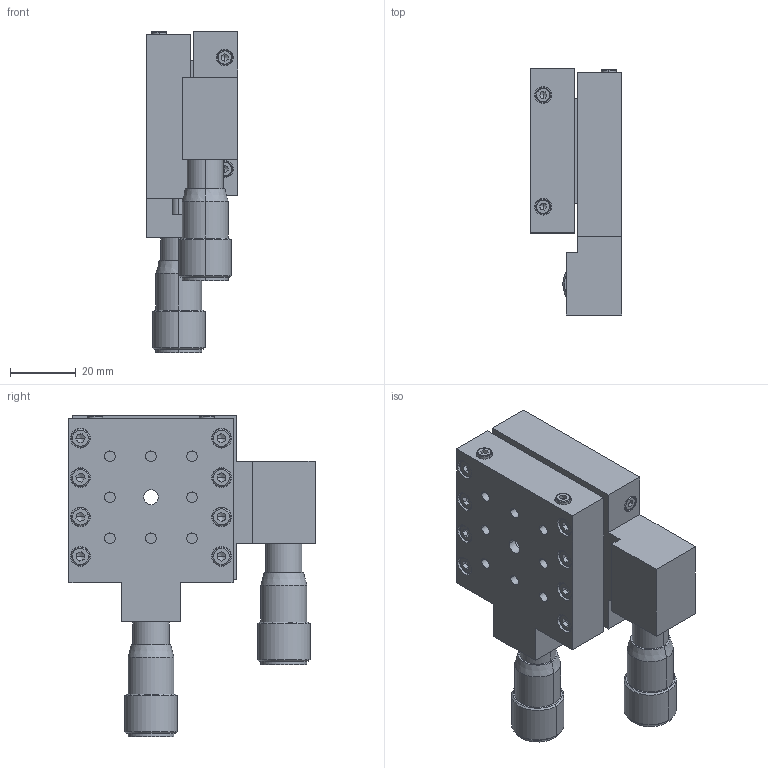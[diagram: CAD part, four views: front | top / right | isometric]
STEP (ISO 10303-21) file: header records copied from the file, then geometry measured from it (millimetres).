
FILE_DESCRIPTION (( 'STEP AP203' ), '1' );
FILE_NAME ('7T273-10T.STEP', '2008-09-17T12:31:35', ( 'Darius' ), ( '' ), 'SwSTEP 2.0', 'SolidWorks 2003240', '' );
FILE_SCHEMA (( 'CONFIG_CONTROL_DESIGN' ));
Products named in the file (1): 7T273-10T
Bounding box: 28 x 75 x 98 mm (x, y, z)
Volume: 82249 mm3; surface area: 31404.6 mm2
Topology: 1 solids, 28 shells, 1160 faces, 2941 edges, 1924 vertices
Faces by surface type: plane 503, bspline 306, cylinder 283, cone 68
Entity records: 41102 total; most frequent: CARTESIAN_POINT 15002, ORIENTED_EDGE 5786, DIRECTION 4533, EDGE_CURVE 2893, VERTEX_POINT 1924, AXIS2_PLACEMENT_3D 1539, VECTOR 1455, LINE 1455
